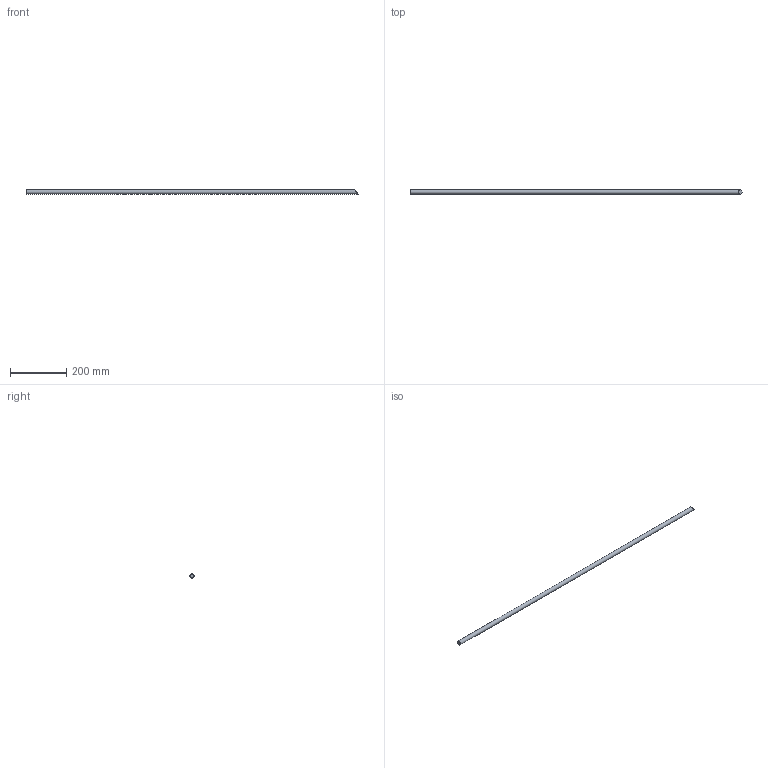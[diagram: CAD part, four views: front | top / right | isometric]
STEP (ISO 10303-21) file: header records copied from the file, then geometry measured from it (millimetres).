
FILE_DESCRIPTION(/* description */ (''),/* implementation_level */ '2;1');
FILE_NAME(/* name */ 'Pos113-Massieve as 15-S235JRG2-1st',/* time_stamp */ '2024-08-06T13:49:48+02:00',/* author */ (''),/* organization */ (''),/* preprocessor_version */ 'ST-DEVELOPER v16.5',/* originating_system */ 'HiCAD 2024 2901.2 Build 361',/* authorisation */ '');
FILE_SCHEMA (('AUTOMOTIVE_DESIGN { 1 0 10303 214 1 1 1 1 }'));
Length unit declared in the file: millimetre
Products named in the file (1): Pos113-Massieve as 15-S235JRG2-1st
Bounding box: 1179.98 x 15 x 15 mm (x, y, z)
Volume: 207447.1 mm3; surface area: 55723.3 mm2
Topology: 1 solids, 1 shells, 3 faces, 3 edges, 2 vertices
Faces by surface type: plane 2, cylinder 1
Full cylindrical faces by diameter (mm): 15 x1
Entity records: 92 total; most frequent: DIRECTION 10, CARTESIAN_POINT 7, PRESENTATION_STYLE_ASSIGNMENT 5, COLOUR_RGB 5, AXIS2_PLACEMENT_3D 5, DRAUGHTING_PRE_DEFINED_CURVE_FONT 4, CURVE_STYLE 4, OVER_RIDING_STYLED_ITEM 4
